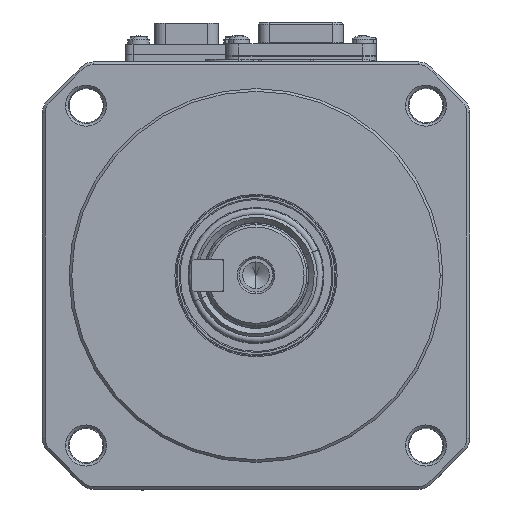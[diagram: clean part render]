
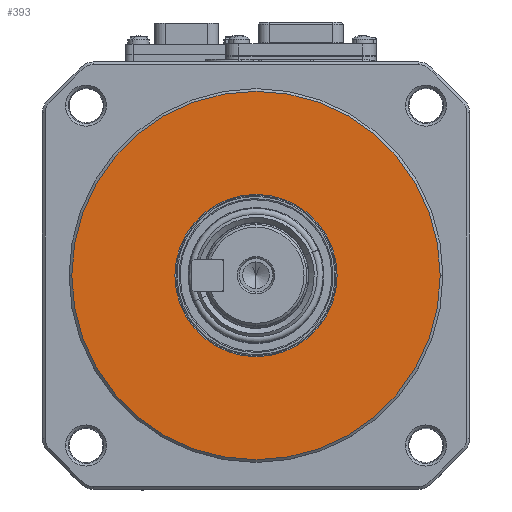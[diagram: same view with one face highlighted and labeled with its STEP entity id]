
A CAD part, top view. The second image highlights one B-rep face of the part: STEP entity #393.
In plain terms, the highlighted planar face has unit normal (0, 0, 1).
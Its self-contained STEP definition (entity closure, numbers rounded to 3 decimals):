
#9 = DIRECTION ( 'NONE',  ( 0., 0., 1. ) ) ;
#393 = ADVANCED_FACE ( 'NONE', ( #6125, #56883 ), #107485, .F. ) ;
#6125 = FACE_BOUND ( 'NONE', #7587, .T. ) ;
#7587 = EDGE_LOOP ( 'NONE', ( #101299, #48671 ) ) ;
#8020 = CARTESIAN_POINT ( 'NONE',  ( 0., -15.191, 0. ) ) ;
#12418 = CIRCLE ( 'NONE', #122333, 34.5 ) ;
#15827 = CARTESIAN_POINT ( 'NONE',  ( 0., 0., 0. ) ) ;
#24218 = DIRECTION ( 'NONE',  ( 0., 0., -1. ) ) ;
#27546 = CIRCLE ( 'NONE', #29676, 15.191 ) ;
#28036 = CARTESIAN_POINT ( 'NONE',  ( 0., 15.191, 0. ) ) ;
#29676 = AXIS2_PLACEMENT_3D ( 'NONE', #93288, #52447, #70684 ) ;
#39680 = DIRECTION ( 'NONE',  ( 1., 0., 0. ) ) ;
#40569 = ORIENTED_EDGE ( 'NONE', *, *, #125556, .T. ) ;
#45021 = CARTESIAN_POINT ( 'NONE',  ( 0., 0., 0. ) ) ;
#45905 = EDGE_CURVE ( 'NONE', #106077, #61480, #27546, .T. ) ;
#48671 = ORIENTED_EDGE ( 'NONE', *, *, #53693, .T. ) ;
#52447 = DIRECTION ( 'NONE',  ( 0., 0., -1. ) ) ;
#53693 = EDGE_CURVE ( 'NONE', #61480, #106077, #98950, .T. ) ;
#56883 = FACE_OUTER_BOUND ( 'NONE', #115731, .T. ) ;
#57892 = CARTESIAN_POINT ( 'NONE',  ( -34.5, 0., 0. ) ) ;
#60723 = AXIS2_PLACEMENT_3D ( 'NONE', #76959, #104938, #116591 ) ;
#61480 = VERTEX_POINT ( 'NONE', #8020 ) ;
#68859 = VERTEX_POINT ( 'NONE', #104902 ) ;
#70684 = DIRECTION ( 'NONE',  ( 0., 1., 0. ) ) ;
#76849 = EDGE_CURVE ( 'NONE', #110980, #68859, #103720, .T. ) ;
#76959 = CARTESIAN_POINT ( 'NONE',  ( 0., 14.7, 0. ) ) ;
#85389 = DIRECTION ( 'NONE',  ( 0., 0., 1. ) ) ;
#92615 = ORIENTED_EDGE ( 'NONE', *, *, #76849, .T. ) ;
#93288 = CARTESIAN_POINT ( 'NONE',  ( 0., 0., 0. ) ) ;
#98950 = CIRCLE ( 'NONE', #111420, 15.191 ) ;
#101299 = ORIENTED_EDGE ( 'NONE', *, *, #45905, .T. ) ;
#102893 = DIRECTION ( 'NONE',  ( 0., 1., 0. ) ) ;
#103720 = CIRCLE ( 'NONE', #128504, 34.5 ) ;
#104902 = CARTESIAN_POINT ( 'NONE',  ( 34.5, 0., 0. ) ) ;
#104938 = DIRECTION ( 'NONE',  ( 0., 0., -1. ) ) ;
#106077 = VERTEX_POINT ( 'NONE', #28036 ) ;
#107485 = PLANE ( 'NONE',  #60723 ) ;
#110980 = VERTEX_POINT ( 'NONE', #57892 ) ;
#111159 = CARTESIAN_POINT ( 'NONE',  ( 0., 0., 0. ) ) ;
#111420 = AXIS2_PLACEMENT_3D ( 'NONE', #45021, #24218, #102893 ) ;
#115731 = EDGE_LOOP ( 'NONE', ( #92615, #40569 ) ) ;
#115913 = DIRECTION ( 'NONE',  ( 1., 0., 0. ) ) ;
#116591 = DIRECTION ( 'NONE',  ( 0., 1., 0. ) ) ;
#122333 = AXIS2_PLACEMENT_3D ( 'NONE', #15827, #85389, #115913 ) ;
#125556 = EDGE_CURVE ( 'NONE', #68859, #110980, #12418, .T. ) ;
#128504 = AXIS2_PLACEMENT_3D ( 'NONE', #111159, #9, #39680 ) ;
